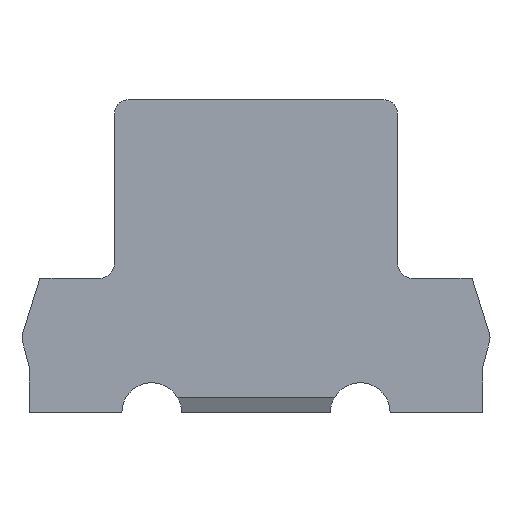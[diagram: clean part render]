
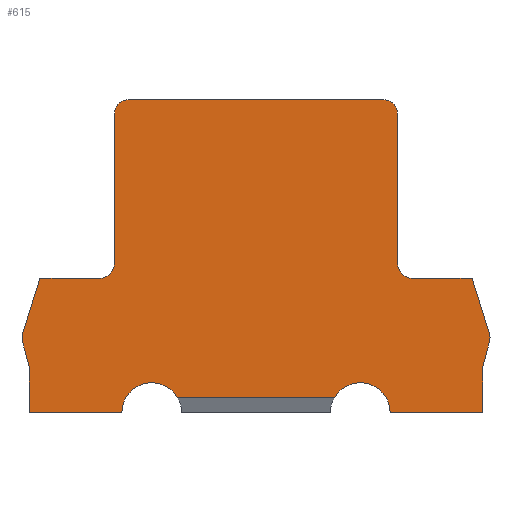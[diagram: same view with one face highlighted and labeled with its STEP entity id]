
A CAD part, front view. The second image highlights one B-rep face of the part: STEP entity #615.
In plain terms, the highlighted planar face has unit normal (0, -1, 0).
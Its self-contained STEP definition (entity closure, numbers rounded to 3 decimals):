
#98=DIRECTION('',(0.,0.,-1.));
#99=VECTOR('',#98,0.3);
#100=CARTESIAN_POINT('',(-0.07,0.,-0.6));
#101=LINE('',#100,#99);
#118=DIRECTION('',(-1.,0.,0.));
#119=VECTOR('',#118,0.4);
#120=CARTESIAN_POINT('',(0.4,0.,0.));
#121=LINE('',#120,#119);
#126=DIRECTION('',(-1.,0.,0.));
#127=VECTOR('',#126,1.054);
#128=CARTESIAN_POINT('',(1.977,0.,-0.8));
#129=LINE('',#128,#127);
#130=CARTESIAN_POINT('',(0.75,0.,-0.9));
#131=DIRECTION('',(0.,-1.,0.));
#132=DIRECTION('',(0.866,0.,0.5));
#133=AXIS2_PLACEMENT_3D('',#130,#131,#132);
#135=DIRECTION('',(-1.,0.,0.));
#136=VECTOR('',#135,0.62);
#137=CARTESIAN_POINT('',(0.55,0.,-0.9));
#138=LINE('',#137,#136);
#139=DIRECTION('',(-0.258,0.,0.966));
#140=VECTOR('',#139,0.18);
#141=CARTESIAN_POINT('',(-0.07,0.,-0.6));
#142=LINE('',#141,#140);
#143=CARTESIAN_POINT('',(-0.02,0.,-0.4));
#144=DIRECTION('',(0.,1.,0.));
#145=DIRECTION('',(-0.966,0.,-0.258));
#146=AXIS2_PLACEMENT_3D('',#143,#144,#145);
#148=DIRECTION('',(0.298,0.,0.955));
#149=VECTOR('',#148,0.388);
#150=CARTESIAN_POINT('',(-0.115,0.,-0.37));
#151=LINE('',#150,#149);
#152=CARTESIAN_POINT('',(0.4,0.,0.1));
#153=DIRECTION('',(0.,-1.,0.));
#154=DIRECTION('',(0.,0.,-1.));
#155=AXIS2_PLACEMENT_3D('',#152,#153,#154);
#157=DIRECTION('',(0.,0.,1.));
#158=VECTOR('',#157,1.);
#159=CARTESIAN_POINT('',(0.5,0.,0.1));
#160=LINE('',#159,#158);
#161=CARTESIAN_POINT('',(0.6,0.,1.1));
#162=DIRECTION('',(0.,1.,0.));
#163=DIRECTION('',(-1.,0.,0.));
#164=AXIS2_PLACEMENT_3D('',#161,#162,#163);
#166=DIRECTION('',(1.,0.,0.));
#167=VECTOR('',#166,1.7);
#168=CARTESIAN_POINT('',(0.6,0.,1.2));
#169=LINE('',#168,#167);
#170=CARTESIAN_POINT('',(2.3,0.,1.1));
#171=DIRECTION('',(0.,1.,0.));
#172=DIRECTION('',(0.,0.,1.));
#173=AXIS2_PLACEMENT_3D('',#170,#171,#172);
#175=DIRECTION('',(0.,0.,-1.));
#176=VECTOR('',#175,1.);
#177=CARTESIAN_POINT('',(2.4,0.,1.1));
#178=LINE('',#177,#176);
#179=CARTESIAN_POINT('',(2.5,0.,0.1));
#180=DIRECTION('',(0.,-1.,0.));
#181=DIRECTION('',(-1.,0.,0.));
#182=AXIS2_PLACEMENT_3D('',#179,#180,#181);
#184=DIRECTION('',(0.298,0.,-0.955));
#185=VECTOR('',#184,0.388);
#186=CARTESIAN_POINT('',(2.9,0.,0.));
#187=LINE('',#186,#185);
#188=CARTESIAN_POINT('',(2.92,0.,-0.4));
#189=DIRECTION('',(0.,1.,0.));
#190=DIRECTION('',(0.955,0.,0.298));
#191=AXIS2_PLACEMENT_3D('',#188,#189,#190);
#193=DIRECTION('',(-0.258,0.,-0.966));
#194=VECTOR('',#193,0.18);
#195=CARTESIAN_POINT('',(3.017,0.,-0.426));
#196=LINE('',#195,#194);
#197=DIRECTION('',(-1.,0.,0.));
#198=VECTOR('',#197,0.62);
#199=CARTESIAN_POINT('',(2.97,0.,-0.9));
#200=LINE('',#199,#198);
#201=CARTESIAN_POINT('',(2.15,0.,-0.9));
#202=DIRECTION('',(0.,-1.,0.));
#203=DIRECTION('',(1.,0.,0.));
#204=AXIS2_PLACEMENT_3D('',#201,#202,#203);
#206=CARTESIAN_POINT('',(1.977,0.,
-0.8));
#241=DIRECTION('',(0.,0.,1.));
#242=VECTOR('',#241,0.3);
#243=CARTESIAN_POINT('',(2.97,0.,-0.9));
#244=LINE('',#243,#242);
#261=DIRECTION('',(-1.,0.,0.));
#262=VECTOR('',#261,0.4);
#263=CARTESIAN_POINT('',(2.9,0.,0.));
#264=LINE('',#263,#262);
#356=CARTESIAN_POINT('',(0.55,0.,-0.9));
#357=VERTEX_POINT('',#356);
#358=CARTESIAN_POINT('',(0.923,0.,-0.8));
#359=VERTEX_POINT('',#358);
#361=CARTESIAN_POINT('',(2.35,0.,-0.9));
#362=VERTEX_POINT('',#361);
#363=CARTESIAN_POINT('',(2.97,0.,-0.9));
#364=VERTEX_POINT('',#363);
#365=CARTESIAN_POINT('',(-0.07,0.,-0.9));
#366=VERTEX_POINT('',#365);
#369=VERTEX_POINT('',#206);
#370=CARTESIAN_POINT('',(-0.07,0.,-0.6));
#371=VERTEX_POINT('',#370);
#372=CARTESIAN_POINT('',(-0.117,0.,-0.426));
#373=VERTEX_POINT('',#372);
#374=CARTESIAN_POINT('',(-0.115,0.,-0.37));
#375=VERTEX_POINT('',#374);
#376=CARTESIAN_POINT('',(0.,0.,0.));
#377=VERTEX_POINT('',#376);
#378=CARTESIAN_POINT('',(0.4,0.,0.));
#379=VERTEX_POINT('',#378);
#380=CARTESIAN_POINT('',(0.5,0.,0.1));
#381=VERTEX_POINT('',#380);
#382=CARTESIAN_POINT('',(0.5,0.,1.1));
#383=VERTEX_POINT('',#382);
#384=CARTESIAN_POINT('',(0.6,0.,1.2));
#385=VERTEX_POINT('',#384);
#386=CARTESIAN_POINT('',(2.3,0.,1.2));
#387=VERTEX_POINT('',#386);
#388=CARTESIAN_POINT('',(2.4,0.,1.1));
#389=VERTEX_POINT('',#388);
#390=CARTESIAN_POINT('',(2.4,0.,0.1));
#391=VERTEX_POINT('',#390);
#392=CARTESIAN_POINT('',(2.5,0.,0.));
#393=VERTEX_POINT('',#392);
#394=CARTESIAN_POINT('',(2.9,0.,0.));
#395=VERTEX_POINT('',#394);
#396=CARTESIAN_POINT('',(3.015,0.,-0.37));
#397=VERTEX_POINT('',#396);
#398=CARTESIAN_POINT('',(3.017,0.,-0.426));
#399=VERTEX_POINT('',#398);
#400=CARTESIAN_POINT('',(2.97,0.,-0.6));
#401=VERTEX_POINT('',#400);
#571=CARTESIAN_POINT('',(0.,0.,0.));
#572=DIRECTION('',(0.,-1.,0.));
#573=DIRECTION('',(1.,0.,0.));
#574=AXIS2_PLACEMENT_3D('',#571,#572,#573);
#575=PLANE('',#574);
#577=ORIENTED_EDGE('',*,*,#576,.T.);
#578=ORIENTED_EDGE('',*,*,#478,.T.);
#579=ORIENTED_EDGE('',*,*,#496,.T.);
#580=ORIENTED_EDGE('',*,*,#509,.F.);
#581=ORIENTED_EDGE('',*,*,#523,.T.);
#582=ORIENTED_EDGE('',*,*,#537,.T.);
#583=ORIENTED_EDGE('',*,*,#551,.T.);
#584=ORIENTED_EDGE('',*,*,#562,.F.);
#586=ORIENTED_EDGE('',*,*,#585,.T.);
#588=ORIENTED_EDGE('',*,*,#587,.T.);
#590=ORIENTED_EDGE('',*,*,#589,.T.);
#592=ORIENTED_EDGE('',*,*,#591,.T.);
#594=ORIENTED_EDGE('',*,*,#593,.T.);
#596=ORIENTED_EDGE('',*,*,#595,.T.);
#598=ORIENTED_EDGE('',*,*,#597,.T.);
#600=ORIENTED_EDGE('',*,*,#599,.F.);
#602=ORIENTED_EDGE('',*,*,#601,.T.);
#604=ORIENTED_EDGE('',*,*,#603,.T.);
#606=ORIENTED_EDGE('',*,*,#605,.T.);
#608=ORIENTED_EDGE('',*,*,#607,.F.);
#610=ORIENTED_EDGE('',*,*,#609,.T.);
#612=ORIENTED_EDGE('',*,*,#611,.T.);
#613=EDGE_LOOP('',(#577,#578,#579,#580,#581,#582,#583,#584,#586,#588,#590,#592,
#594,#596,#598,#600,#602,#604,#606,#608,#610,#612));
#614=FACE_OUTER_BOUND('',#613,.F.);
#615=ADVANCED_FACE('',(#614),#575,.T.);
#134=CIRCLE('',#133,0.2);
#147=CIRCLE('',#146,0.1);
#156=CIRCLE('',#155,0.1);
#165=CIRCLE('',#164,0.1);
#174=CIRCLE('',#173,0.1);
#183=CIRCLE('',#182,0.1);
#192=CIRCLE('',#191,0.1);
#205=CIRCLE('',#204,0.2);
#478=EDGE_CURVE('',#359,#357,#134,.T.);
#496=EDGE_CURVE('',#357,#366,#138,.T.);
#509=EDGE_CURVE('',#371,#366,#101,.T.);
#523=EDGE_CURVE('',#371,#373,#142,.T.);
#537=EDGE_CURVE('',#373,#375,#147,.T.);
#551=EDGE_CURVE('',#375,#377,#151,.T.);
#562=EDGE_CURVE('',#379,#377,#121,.T.);
#576=EDGE_CURVE('',#369,#359,#129,.T.);
#585=EDGE_CURVE('',#379,#381,#156,.T.);
#587=EDGE_CURVE('',#381,#383,#160,.T.);
#589=EDGE_CURVE('',#383,#385,#165,.T.);
#591=EDGE_CURVE('',#385,#387,#169,.T.);
#593=EDGE_CURVE('',#387,#389,#174,.T.);
#595=EDGE_CURVE('',#389,#391,#178,.T.);
#597=EDGE_CURVE('',#391,#393,#183,.T.);
#599=EDGE_CURVE('',#395,#393,#264,.T.);
#601=EDGE_CURVE('',#395,#397,#187,.T.);
#603=EDGE_CURVE('',#397,#399,#192,.T.);
#605=EDGE_CURVE('',#399,#401,#196,.T.);
#607=EDGE_CURVE('',#364,#401,#244,.T.);
#609=EDGE_CURVE('',#364,#362,#200,.T.);
#611=EDGE_CURVE('',#362,#369,#205,.T.);
